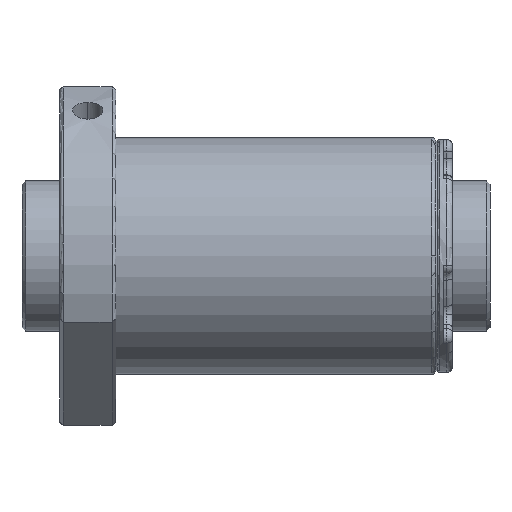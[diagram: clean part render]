
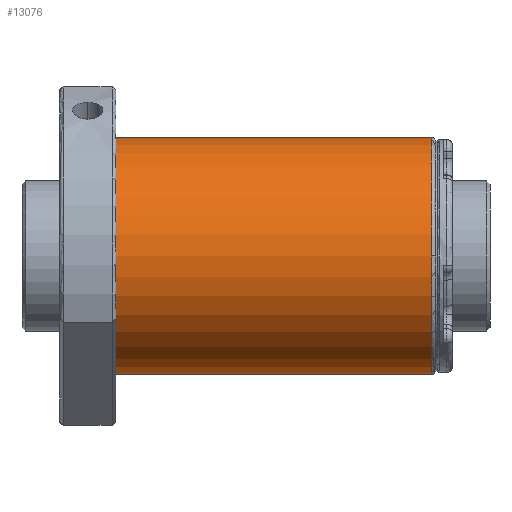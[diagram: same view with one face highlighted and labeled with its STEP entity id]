
A CAD part, front view. The second image highlights one B-rep face of the part: STEP entity #13076.
In plain terms, the highlighted cylindrical face has radius 31.5 mm (diameter 63 mm), a partial arc.
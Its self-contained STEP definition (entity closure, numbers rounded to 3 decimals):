
#43 = CARTESIAN_POINT ( 'NONE',  ( 15., 0., -31.5 ) ) ;
#562 = DIRECTION ( 'NONE',  ( 1., 0., 0. ) ) ;
#801 = CARTESIAN_POINT ( 'NONE',  ( 100., 0., 0. ) ) ;
#1031 = CARTESIAN_POINT ( 'NONE',  ( 15., 0., 31.5 ) ) ;
#1032 = EDGE_CURVE ( 'NONE', #10618, #10874, #12337, .T. ) ;
#1159 = AXIS2_PLACEMENT_3D ( 'NONE', #801, #14321, #11117 ) ;
#1255 = DIRECTION ( 'NONE',  ( -1., 0., 0. ) ) ;
#1339 = VERTEX_POINT ( 'NONE', #1031 ) ;
#1382 = VECTOR ( 'NONE', #1255, 1000. ) ;
#1577 = CARTESIAN_POINT ( 'NONE',  ( 15., 0., 0. ) ) ;
#1648 = VECTOR ( 'NONE', #9261, 1000. ) ;
#1795 = AXIS2_PLACEMENT_3D ( 'NONE', #5371, #13299, #1937 ) ;
#1937 = DIRECTION ( 'NONE',  ( 0., 0., 1. ) ) ;
#3322 = EDGE_CURVE ( 'NONE', #10874, #1339, #6367, .T. ) ;
#4704 = ORIENTED_EDGE ( 'NONE', *, *, #7260, .F. ) ;
#4717 = FACE_OUTER_BOUND ( 'NONE', #9210, .T. ) ;
#5129 = ORIENTED_EDGE ( 'NONE', *, *, #9492, .T. ) ;
#5190 = CARTESIAN_POINT ( 'NONE',  ( 99., -31.5, 0. ) ) ;
#5371 = CARTESIAN_POINT ( 'NONE',  ( 99., 0., 0. ) ) ;
#5547 = ORIENTED_EDGE ( 'NONE', *, *, #10633, .T. ) ;
#5951 = ORIENTED_EDGE ( 'NONE', *, *, #1032, .T. ) ;
#6205 = AXIS2_PLACEMENT_3D ( 'NONE', #9144, #8192, #9343 ) ;
#6319 = VERTEX_POINT ( 'NONE', #43 ) ;
#6367 = LINE ( 'NONE', #10261, #1382 ) ;
#7260 = EDGE_CURVE ( 'NONE', #8277, #6319, #11135, .T. ) ;
#7580 = CYLINDRICAL_SURFACE ( 'NONE', #1159, 31.5 ) ;
#8192 = DIRECTION ( 'NONE',  ( -1., 0., 0. ) ) ;
#8277 = VERTEX_POINT ( 'NONE', #10472 ) ;
#8413 = DIRECTION ( 'NONE',  ( 0., 0., 1. ) ) ;
#8959 = ORIENTED_EDGE ( 'NONE', *, *, #3322, .T. ) ;
#9144 = CARTESIAN_POINT ( 'NONE',  ( 99., 0., 0. ) ) ;
#9210 = EDGE_LOOP ( 'NONE', ( #4704, #5129, #5951, #8959, #5547 ) ) ;
#9261 = DIRECTION ( 'NONE',  ( -1., 0., 0. ) ) ;
#9343 = DIRECTION ( 'NONE',  ( 0., 0., 1. ) ) ;
#9492 = EDGE_CURVE ( 'NONE', #8277, #10618, #10018, .T. ) ;
#10018 = CIRCLE ( 'NONE', #1795, 31.5 ) ;
#10217 = CARTESIAN_POINT ( 'NONE',  ( 99., 0., 31.5 ) ) ;
#10224 = CARTESIAN_POINT ( 'NONE',  ( 100., 0., -31.5 ) ) ;
#10261 = CARTESIAN_POINT ( 'NONE',  ( 100., 0., 31.5 ) ) ;
#10472 = CARTESIAN_POINT ( 'NONE',  ( 99., 0., -31.5 ) ) ;
#10618 = VERTEX_POINT ( 'NONE', #5190 ) ;
#10633 = EDGE_CURVE ( 'NONE', #1339, #6319, #12874, .T. ) ;
#10874 = VERTEX_POINT ( 'NONE', #10217 ) ;
#11117 = DIRECTION ( 'NONE',  ( 0., 0., 1. ) ) ;
#11135 = LINE ( 'NONE', #10224, #1648 ) ;
#12247 = AXIS2_PLACEMENT_3D ( 'NONE', #1577, #562, #8413 ) ;
#12337 = CIRCLE ( 'NONE', #6205, 31.5 ) ;
#12874 = CIRCLE ( 'NONE', #12247, 31.5 ) ;
#13076 = ADVANCED_FACE ( 'NONE', ( #4717 ), #7580, .T. ) ;
#13299 = DIRECTION ( 'NONE',  ( -1., 0., 0. ) ) ;
#14321 = DIRECTION ( 'NONE',  ( -1., 0., 0. ) ) ;
